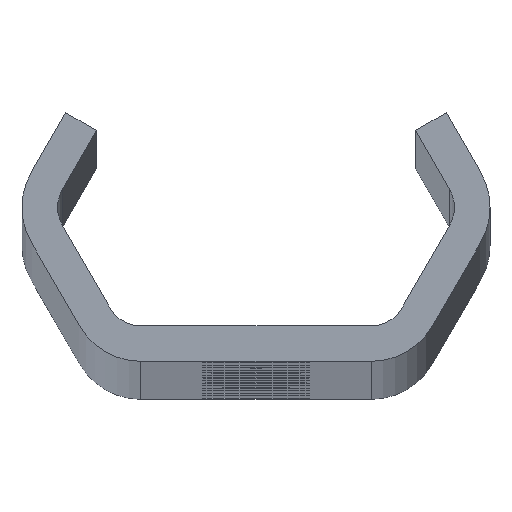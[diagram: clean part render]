
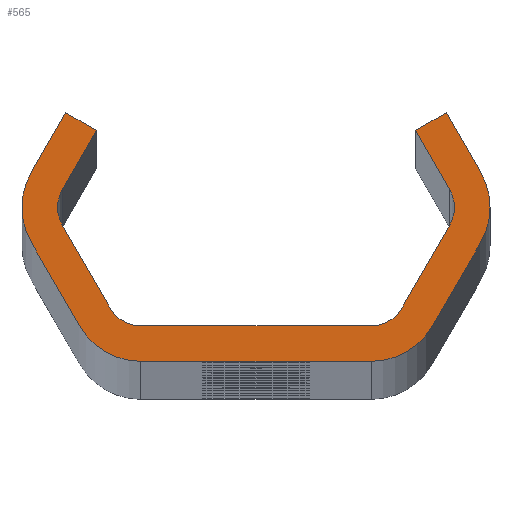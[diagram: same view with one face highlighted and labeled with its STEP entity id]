
A CAD part, top view. The second image highlights one B-rep face of the part: STEP entity #565.
In plain terms, the highlighted planar face has unit normal (0, 0, 1).
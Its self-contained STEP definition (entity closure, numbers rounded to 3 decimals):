
#565=ADVANCED_FACE('NONE',(#1556),#1557,.F.);
#1556=FACE_OUTER_BOUND('',#4982,.T.);
#1557=PLANE('',#4983);
#4982=EDGE_LOOP('',(#10071,#10072,#10073,#10074,#10075,#10076,#10077,#10078,#10079,#10080,#10081,#10082,#10083,#10084,#10085,#10086,#10087,#10088,#10089,#10090,#10091,#10092,#10093,#10094));
#4983=AXIS2_PLACEMENT_3D('',#10095,#10096,#10097);
#10071=ORIENTED_EDGE('',*,*,#13461,.T.);
#10072=ORIENTED_EDGE('',*,*,#13495,.T.);
#10073=ORIENTED_EDGE('',*,*,#13170,.T.);
#10074=ORIENTED_EDGE('',*,*,#13463,.T.);
#10075=ORIENTED_EDGE('',*,*,#13496,.T.);
#10076=ORIENTED_EDGE('',*,*,#13467,.T.);
#10077=ORIENTED_EDGE('',*,*,#13497,.T.);
#10078=ORIENTED_EDGE('',*,*,#13177,.T.);
#10079=ORIENTED_EDGE('',*,*,#13498,.T.);
#10080=ORIENTED_EDGE('',*,*,#12928,.T.);
#10081=ORIENTED_EDGE('',*,*,#13180,.T.);
#10082=ORIENTED_EDGE('',*,*,#13186,.T.);
#10083=ORIENTED_EDGE('',*,*,#13189,.T.);
#10084=ORIENTED_EDGE('',*,*,#13167,.T.);
#10085=ORIENTED_EDGE('',*,*,#13499,.T.);
#10086=ORIENTED_EDGE('',*,*,#13191,.T.);
#10087=ORIENTED_EDGE('',*,*,#13500,.T.);
#10088=ORIENTED_EDGE('',*,*,#13198,.T.);
#10089=ORIENTED_EDGE('',*,*,#13501,.T.);
#10090=ORIENTED_EDGE('',*,*,#13448,.T.);
#10091=ORIENTED_EDGE('',*,*,#13502,.T.);
#10092=ORIENTED_EDGE('',*,*,#12923,.T.);
#10093=ORIENTED_EDGE('',*,*,#13451,.T.);
#10094=ORIENTED_EDGE('',*,*,#13457,.T.);
#10095=CARTESIAN_POINT('',(0.0,0.0,1840.0));
#10096=DIRECTION('',(0.0,0.0,-1.0));
#10097=DIRECTION('',(0.0,-1.0,0.0));
#12923=EDGE_CURVE('NONE',#14410,#14414,#14416,.T.);
#12928=EDGE_CURVE('NONE',#14419,#14423,#14425,.T.);
#13167=EDGE_CURVE('NONE',#14855,#14853,#14856,.T.);
#13170=EDGE_CURVE('NONE',#14859,#14860,#14861,.T.);
#13177=EDGE_CURVE('NONE',#14873,#14871,#14874,.T.);
#13180=EDGE_CURVE('NONE',#14423,#14877,#14878,.T.);
#13186=EDGE_CURVE('NONE',#14877,#14885,#14887,.T.);
#13189=EDGE_CURVE('NONE',#14885,#14855,#14890,.T.);
#13191=EDGE_CURVE('NONE',#14892,#14893,#14894,.T.);
#13198=EDGE_CURVE('NONE',#14906,#14904,#14907,.T.);
#13448=EDGE_CURVE('NONE',#15370,#15368,#15371,.T.);
#13451=EDGE_CURVE('NONE',#14414,#15374,#15375,.T.);
#13457=EDGE_CURVE('NONE',#15374,#15382,#15384,.T.);
#13461=EDGE_CURVE('NONE',#15382,#15388,#15390,.T.);
#13463=EDGE_CURVE('NONE',#14860,#15392,#15393,.T.);
#13467=EDGE_CURVE('NONE',#15398,#15399,#15400,.T.);
#13495=EDGE_CURVE('NONE',#15388,#14859,#15430,.T.);
#13496=EDGE_CURVE('NONE',#15392,#15398,#15431,.T.);
#13497=EDGE_CURVE('NONE',#15399,#14873,#15432,.T.);
#13498=EDGE_CURVE('NONE',#14871,#14419,#15433,.T.);
#13499=EDGE_CURVE('NONE',#14853,#14892,#15434,.T.);
#13500=EDGE_CURVE('NONE',#14893,#14906,#15435,.T.);
#13501=EDGE_CURVE('NONE',#14904,#15370,#15436,.T.);
#13502=EDGE_CURVE('NONE',#15368,#14410,#15437,.T.);
#14410=VERTEX_POINT('',#16615);
#14414=VERTEX_POINT('NONE',#16620);
#14416=CIRCLE('',#16623,3.0);
#14419=VERTEX_POINT('',#16626);
#14423=VERTEX_POINT('NONE',#16631);
#14425=CIRCLE('',#16634,6.0);
#14853=VERTEX_POINT('NONE',#19208);
#14855=VERTEX_POINT('NONE',#19211);
#14856=CIRCLE('',#19212,3.0);
#14859=VERTEX_POINT('NONE',#19216);
#14860=VERTEX_POINT('NONE',#19217);
#14861=CIRCLE('',#19218,6.0);
#14871=VERTEX_POINT('NONE',#19231);
#14873=VERTEX_POINT('NONE',#19234);
#14874=LINE('',#19235,#19236);
#14877=VERTEX_POINT('NONE',#19240);
#14878=LINE('',#19241,#19242);
#14885=VERTEX_POINT('NONE',#19252);
#14887=LINE('',#19255,#19256);
#14890=LINE('',#19260,#19261);
#14892=VERTEX_POINT('NONE',#19263);
#14893=VERTEX_POINT('NONE',#19264);
#14894=LINE('',#19265,#19266);
#14904=VERTEX_POINT('NONE',#19280);
#14906=VERTEX_POINT('NONE',#19283);
#14907=LINE('',#19284,#19285);
#15368=VERTEX_POINT('NONE',#20948);
#15370=VERTEX_POINT('NONE',#20951);
#15371=LINE('',#20952,#20953);
#15374=VERTEX_POINT('NONE',#20957);
#15375=LINE('',#20958,#20959);
#15382=VERTEX_POINT('NONE',#20969);
#15384=LINE('',#20972,#20973);
#15388=VERTEX_POINT('NONE',#20978);
#15390=LINE('',#20981,#20982);
#15392=VERTEX_POINT('NONE',#20984);
#15393=LINE('',#20985,#20986);
#15398=VERTEX_POINT('NONE',#20993);
#15399=VERTEX_POINT('NONE',#20994);
#15400=LINE('',#20995,#20996);
#15430=CIRCLE('',#21029,6.0);
#15431=CIRCLE('',#21030,6.0);
#15432=CIRCLE('',#21031,6.0);
#15433=CIRCLE('',#21032,6.0);
#15434=CIRCLE('',#21033,3.0);
#15435=CIRCLE('',#21034,3.0);
#15436=CIRCLE('',#21035,3.0);
#15437=CIRCLE('',#21036,3.0);
#16615=CARTESIAN_POINT('',(-16.764,0.,1840.0));
#16620=CARTESIAN_POINT('',(-16.362,1.5,1840.0));
#16623=AXIS2_PLACEMENT_3D('',#24917,#24918,#24919);
#16626=CARTESIAN_POINT('',(19.764,0.,1840.0));
#16631=CARTESIAN_POINT('',(18.96,3.,1840.0));
#16634=AXIS2_PLACEMENT_3D('',#24925,#24926,#24927);
#19208=CARTESIAN_POINT('',(16.764,0.,1840.0));
#19211=CARTESIAN_POINT('',(16.362,1.5,1840.0));
#19212=AXIS2_PLACEMENT_3D('',#25164,#25165,#25166);
#19216=CARTESIAN_POINT('',(-19.764,0.,1840.0));
#19217=CARTESIAN_POINT('',(-18.96,-3.,1840.0));
#19218=AXIS2_PLACEMENT_3D('',#25168,#25169,#25170);
#19231=CARTESIAN_POINT('',(18.96,-3.,1840.0));
#19234=CARTESIAN_POINT('',(14.919,-10.,1840.0));
#19235=CARTESIAN_POINT('',(20.692,0.,1840.0));
#19236=VECTOR('',#25178,1000.0);
#19240=CARTESIAN_POINT('',(16.074,8.,1840.0));
#19241=CARTESIAN_POINT('',(16.074,8.,1840.0));
#19242=VECTOR('',#25180,1000.0);
#19252=CARTESIAN_POINT('',(13.475,6.5,1840.0));
#19255=CARTESIAN_POINT('',(13.475,6.5,1840.0));
#19256=VECTOR('',#25185,1000.0);
#19260=CARTESIAN_POINT('',(17.228,0.,1840.0));
#19261=VECTOR('',#25187,1000.0);
#19263=CARTESIAN_POINT('',(16.362,-1.5,1840.0));
#19264=CARTESIAN_POINT('',(12.321,-8.5,1840.0));
#19265=CARTESIAN_POINT('',(11.455,-10.0,1840.0));
#19266=VECTOR('',#25188,1000.0);
#19280=CARTESIAN_POINT('',(-9.723,-10.0,1840.0));
#19283=CARTESIAN_POINT('',(9.723,-10.0,1840.0));
#19284=CARTESIAN_POINT('',(-11.455,-10.0,1840.0));
#19285=VECTOR('',#25194,1000.0);
#20948=CARTESIAN_POINT('',(-16.362,-1.5,1840.0));
#20951=CARTESIAN_POINT('',(-12.321,-8.5,1840.0));
#20952=CARTESIAN_POINT('',(-17.228,0.,1840.0));
#20953=VECTOR('',#25465,1000.0);
#20957=CARTESIAN_POINT('',(-13.475,6.5,1840.0));
#20958=CARTESIAN_POINT('',(-13.475,6.5,1840.0));
#20959=VECTOR('',#25467,1000.0);
#20969=CARTESIAN_POINT('',(-16.074,8.,1840.0));
#20972=CARTESIAN_POINT('',(-13.475,6.5,1840.0));
#20973=VECTOR('',#25472,1000.0);
#20978=CARTESIAN_POINT('',(-18.96,3.,1840.0));
#20981=CARTESIAN_POINT('',(-16.074,8.,1840.0));
#20982=VECTOR('',#25475,1000.0);
#20984=CARTESIAN_POINT('',(-14.919,-10.,1840.0));
#20985=CARTESIAN_POINT('',(-20.692,0.,1840.0));
#20986=VECTOR('',#25476,1000.0);
#20993=CARTESIAN_POINT('',(-9.723,-13.0,1840.0));
#20994=CARTESIAN_POINT('',(9.723,-13.0,1840.0));
#20995=CARTESIAN_POINT('',(-13.187,-13.0,1840.0));
#20996=VECTOR('',#25479,1000.0);
#21029=AXIS2_PLACEMENT_3D('',#25552,#25553,#25554);
#21030=AXIS2_PLACEMENT_3D('',#25555,#25556,#25557);
#21031=AXIS2_PLACEMENT_3D('',#25558,#25559,#25560);
#21032=AXIS2_PLACEMENT_3D('',#25561,#25562,#25563);
#21033=AXIS2_PLACEMENT_3D('',#25564,#25565,#25566);
#21034=AXIS2_PLACEMENT_3D('',#25567,#25568,#25569);
#21035=AXIS2_PLACEMENT_3D('',#25570,#25571,#25572);
#21036=AXIS2_PLACEMENT_3D('',#25573,#25574,#25575);
#24917=CARTESIAN_POINT('',(-13.764,0.,1840.0));
#24918=DIRECTION('',(0.0,0.0,-1.0));
#24919=DIRECTION('',(-1.0,0.0,0.0));
#24925=CARTESIAN_POINT('',(13.764,0.,1840.0));
#24926=DIRECTION('',(0.0,0.0,1.0));
#24927=DIRECTION('',(-1.0,0.0,0.0));
#25164=CARTESIAN_POINT('',(13.764,0.,1840.0));
#25165=DIRECTION('',(0.0,0.0,-1.0));
#25166=DIRECTION('',(-1.0,0.0,0.0));
#25168=CARTESIAN_POINT('',(-13.764,0.,1840.0));
#25169=DIRECTION('',(0.0,0.0,1.0));
#25170=DIRECTION('',(-1.0,0.0,0.0));
#25178=DIRECTION('',(0.5,0.866,-0.0));
#25180=DIRECTION('',(-0.5,0.866,-0.0));
#25185=DIRECTION('',(-0.866,-0.5,-0.0));
#25187=DIRECTION('',(0.5,-0.866,-0.0));
#25188=DIRECTION('',(-0.5,-0.866,-0.0));
#25194=DIRECTION('',(-1.0,0.,-0.0));
#25465=DIRECTION('',(-0.5,0.866,-0.0));
#25467=DIRECTION('',(0.5,0.866,-0.0));
#25472=DIRECTION('',(-0.866,0.5,0.0));
#25475=DIRECTION('',(-0.5,-0.866,0.0));
#25476=DIRECTION('',(0.5,-0.866,0.0));
#25479=DIRECTION('',(1.0,0.0,0.0));
#25552=CARTESIAN_POINT('',(-13.764,0.,1840.0));
#25553=DIRECTION('',(0.0,0.0,1.0));
#25554=DIRECTION('',(-1.0,0.,0.0));
#25555=CARTESIAN_POINT('',(-9.723,-7.0,1840.0));
#25556=DIRECTION('',(0.0,0.0,1.0));
#25557=DIRECTION('',(-1.0,0.0,0.0));
#25558=CARTESIAN_POINT('',(9.723,-7.0,1840.0));
#25559=DIRECTION('',(0.0,0.0,1.0));
#25560=DIRECTION('',(-1.0,0.,0.0));
#25561=CARTESIAN_POINT('',(13.764,0.,1840.0));
#25562=DIRECTION('',(0.0,0.0,1.0));
#25563=DIRECTION('',(-1.0,0.0,0.0));
#25564=CARTESIAN_POINT('',(13.764,0.,1840.0));
#25565=DIRECTION('',(0.0,0.0,-1.0));
#25566=DIRECTION('',(-1.0,0.0,0.0));
#25567=CARTESIAN_POINT('',(9.723,-7.0,1840.0));
#25568=DIRECTION('',(0.0,0.0,-1.0));
#25569=DIRECTION('',(-1.0,0.0,0.0));
#25570=CARTESIAN_POINT('',(-9.723,-7.0,1840.0));
#25571=DIRECTION('',(0.0,0.0,-1.0));
#25572=DIRECTION('',(-1.0,0.0,0.0));
#25573=CARTESIAN_POINT('',(-13.764,0.,1840.0));
#25574=DIRECTION('',(0.0,0.0,-1.0));
#25575=DIRECTION('',(-1.0,0.0,0.0));
